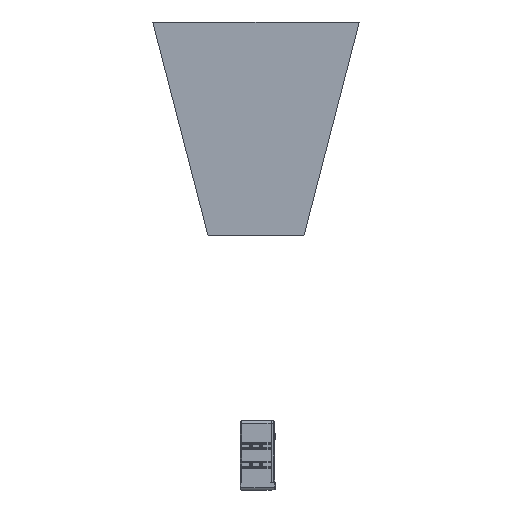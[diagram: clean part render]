
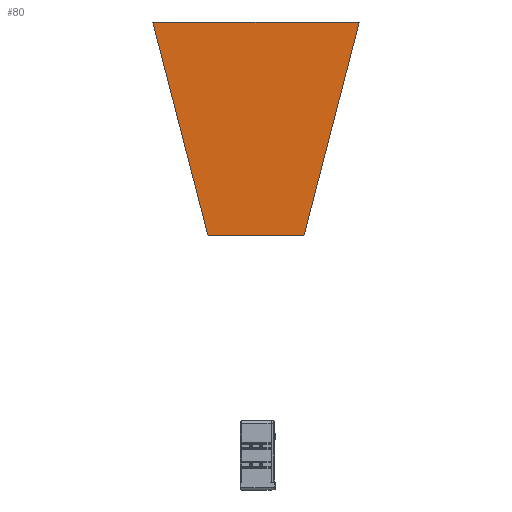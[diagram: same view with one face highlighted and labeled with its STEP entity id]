
A CAD part, left-side view. The second image highlights one B-rep face of the part: STEP entity #80.
In plain terms, the highlighted planar face has unit normal (-1, 0, 0).
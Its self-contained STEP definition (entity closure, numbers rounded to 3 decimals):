
#1=DIRECTION('',(0.,0.251,0.968));
#2=VECTOR('',#1,351.204);
#3=CARTESIAN_POINT('',(19.6,106.5,295.57));
#4=LINE('',#3,#2);
#5=DIRECTION('',(0.,-1.,0.));
#6=VECTOR('',#5,329.);
#7=CARTESIAN_POINT('',(19.6,194.5,635.57));
#8=LINE('',#7,#6);
#9=DIRECTION('',(0.,0.251,-0.968));
#10=VECTOR('',#9,351.204);
#11=CARTESIAN_POINT('',(19.6,-134.5,635.57));
#12=LINE('',#11,#10);
#13=DIRECTION('',(0.,1.,0.));
#14=VECTOR('',#13,153.);
#15=CARTESIAN_POINT('',(19.6,-46.5,295.57));
#16=LINE('',#15,#14);
#49=CARTESIAN_POINT('',(19.6,106.5,295.57));
#50=CARTESIAN_POINT('',(19.6,194.5,635.57));
#51=VERTEX_POINT('',#49);
#52=VERTEX_POINT('',#50);
#53=CARTESIAN_POINT('',(19.6,-134.5,635.57));
#54=VERTEX_POINT('',#53);
#55=CARTESIAN_POINT('',(19.6,-46.5,295.57));
#56=VERTEX_POINT('',#55);
#65=CARTESIAN_POINT('',(19.6,0.,0.));
#66=DIRECTION('',(1.,0.,0.));
#67=DIRECTION('',(0.,-1.,0.));
#68=AXIS2_PLACEMENT_3D('',#65,#66,#67);
#69=PLANE('',#68);
#71=ORIENTED_EDGE('',*,*,#70,.T.);
#73=ORIENTED_EDGE('',*,*,#72,.T.);
#75=ORIENTED_EDGE('',*,*,#74,.T.);
#77=ORIENTED_EDGE('',*,*,#76,.T.);
#78=EDGE_LOOP('',(#71,#73,#75,#77));
#79=FACE_OUTER_BOUND('',#78,.F.);
#80=ADVANCED_FACE('',(#79),#69,.F.);
#70=EDGE_CURVE('',#51,#52,#4,.T.);
#72=EDGE_CURVE('',#52,#54,#8,.T.);
#74=EDGE_CURVE('',#54,#56,#12,.T.);
#76=EDGE_CURVE('',#56,#51,#16,.T.);
